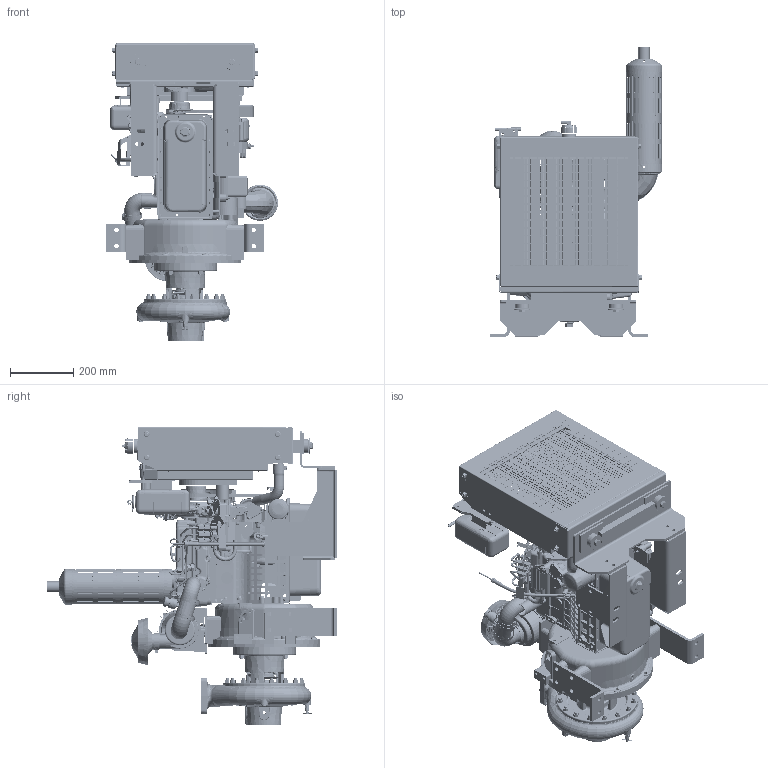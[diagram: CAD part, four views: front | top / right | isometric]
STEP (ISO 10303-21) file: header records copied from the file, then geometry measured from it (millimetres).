
FILE_DESCRIPTION (( 'STEP AP214' ), '1' );
FILE_NAME ('DBD1201.STEP', '2026-03-19T19:23:33', ( '' ), ( '' ), 'SwSTEP 2.0', 'SolidWorks 2024', '' );
FILE_SCHEMA (( 'AUTOMOTIVE_DESIGN' ));
Products named in the file (1): DBD1201
Bounding box: 544.55 x 916.71 x 941.76 mm (x, y, z)
Surface area: 5545336.9 mm2 (no closed solid volume)
Topology: 0 solids, 816 shells, 9243 faces, 41712 edges, 31851 vertices
Faces by surface type: plane 3685, cylinder 2846, bspline 1047, torus 827, cone 736, sphere 102
Entity records: 670018 total; most frequent: CARTESIAN_POINT 384160, ORIENTED_EDGE 58681, DIRECTION 42492, EDGE_CURVE 41602, VERTEX_POINT 31846, B_SPLINE_CURVE_WITH_KNOTS 22182, AXIS2_PLACEMENT_3D 15064, LINE 12364
